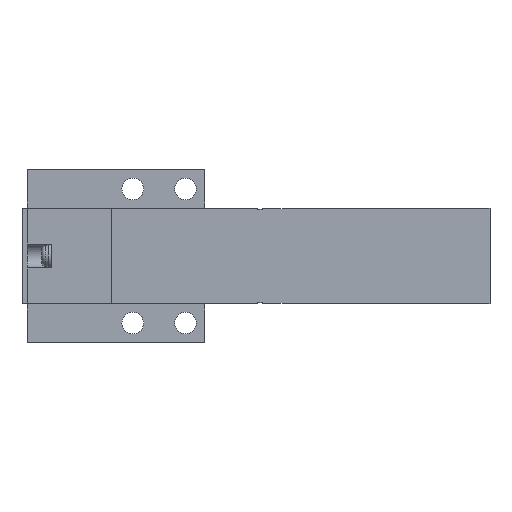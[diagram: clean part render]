
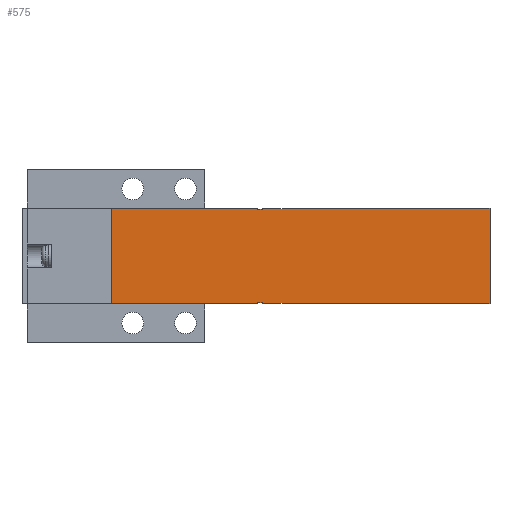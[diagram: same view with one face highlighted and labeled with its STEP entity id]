
A CAD part, front view. The second image highlights one B-rep face of the part: STEP entity #575.
In plain terms, the highlighted planar face has unit normal (0, -1, 0).
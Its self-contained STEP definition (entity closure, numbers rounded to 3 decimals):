
#575=ADVANCED_FACE('',(#1236),#1237,.F.);
#1236=FACE_OUTER_BOUND('',#2072,.T.);
#1237=PLANE('',#2073);
#2072=EDGE_LOOP('',(#4424,#4425,#4426,#4427,#4428,#4429,#4430,#4431,#4432,#4433,#4434,#4435,#4436,#4437,#4438,#4439,#4440,#4441,#4442,#4443,#4444,#4445,#4446,#4447));
#2073=AXIS2_PLACEMENT_3D('',#4448,#4449,#4450);
#4424=ORIENTED_EDGE('',*,*,#6167,.F.);
#4425=ORIENTED_EDGE('',*,*,#6168,.T.);
#4426=ORIENTED_EDGE('',*,*,#6169,.T.);
#4427=ORIENTED_EDGE('',*,*,#6170,.F.);
#4428=ORIENTED_EDGE('',*,*,#6171,.F.);
#4429=ORIENTED_EDGE('',*,*,#6126,.T.);
#4430=ORIENTED_EDGE('',*,*,#6132,.F.);
#4431=ORIENTED_EDGE('',*,*,#6172,.T.);
#4432=ORIENTED_EDGE('',*,*,#6173,.F.);
#4433=ORIENTED_EDGE('',*,*,#6174,.T.);
#4434=ORIENTED_EDGE('',*,*,#6162,.T.);
#4435=ORIENTED_EDGE('',*,*,#6175,.T.);
#4436=ORIENTED_EDGE('',*,*,#6176,.T.);
#4437=ORIENTED_EDGE('',*,*,#6177,.F.);
#4438=ORIENTED_EDGE('',*,*,#6178,.T.);
#4439=ORIENTED_EDGE('',*,*,#6179,.F.);
#4440=ORIENTED_EDGE('',*,*,#6180,.T.);
#4441=ORIENTED_EDGE('',*,*,#6181,.T.);
#4442=ORIENTED_EDGE('',*,*,#6109,.T.);
#4443=ORIENTED_EDGE('',*,*,#6182,.T.);
#4444=ORIENTED_EDGE('',*,*,#6183,.T.);
#4445=ORIENTED_EDGE('',*,*,#6184,.F.);
#4446=ORIENTED_EDGE('',*,*,#6185,.F.);
#4447=ORIENTED_EDGE('',*,*,#6186,.F.);
#4448=CARTESIAN_POINT('',(18.6,0.0,10.0));
#4449=DIRECTION('',(-0.0,1.0,0.0));
#4450=DIRECTION('',(1.0,0.0,0.0));
#6109=EDGE_CURVE('',#7534,#7535,#7536,.T.);
#6126=EDGE_CURVE('',#7567,#7565,#7568,.T.);
#6132=EDGE_CURVE('',#7576,#7565,#7578,.T.);
#6162=EDGE_CURVE('',#7633,#7631,#7634,.T.);
#6167=EDGE_CURVE('',#7641,#7642,#7643,.T.);
#6168=EDGE_CURVE('',#7641,#7644,#7645,.T.);
#6169=EDGE_CURVE('',#7644,#7646,#7647,.T.);
#6170=EDGE_CURVE('',#7648,#7646,#7649,.T.);
#6171=EDGE_CURVE('',#7567,#7648,#7650,.T.);
#6172=EDGE_CURVE('',#7576,#7651,#7652,.T.);
#6173=EDGE_CURVE('',#7653,#7651,#7654,.T.);
#6174=EDGE_CURVE('',#7653,#7633,#7655,.T.);
#6175=EDGE_CURVE('',#7631,#7656,#7657,.T.);
#6176=EDGE_CURVE('',#7656,#7658,#7659,.T.);
#6177=EDGE_CURVE('',#7660,#7658,#7661,.T.);
#6178=EDGE_CURVE('',#7660,#7662,#7663,.T.);
#6179=EDGE_CURVE('',#7664,#7662,#7665,.T.);
#6180=EDGE_CURVE('',#7664,#7666,#7667,.T.);
#6181=EDGE_CURVE('',#7666,#7534,#7668,.T.);
#6182=EDGE_CURVE('',#7535,#7669,#7670,.T.);
#6183=EDGE_CURVE('',#7669,#7671,#7672,.T.);
#6184=EDGE_CURVE('',#7673,#7671,#7674,.T.);
#6185=EDGE_CURVE('',#7675,#7673,#7676,.T.);
#6186=EDGE_CURVE('',#7642,#7675,#7677,.T.);
#7534=VERTEX_POINT('',#9879);
#7535=VERTEX_POINT('',#9880);
#7536=LINE('',#9881,#9882);
#7565=VERTEX_POINT('',#9924);
#7567=VERTEX_POINT('',#9927);
#7568=LINE('',#9928,#9929);
#7576=VERTEX_POINT('',#9939);
#7578=LINE('',#9942,#9943);
#7631=VERTEX_POINT('',#10017);
#7633=VERTEX_POINT('',#10020);
#7634=LINE('',#10021,#10022);
#7641=VERTEX_POINT('',#10033);
#7642=VERTEX_POINT('',#10034);
#7643=LINE('',#10035,#10036);
#7644=VERTEX_POINT('',#10037);
#7645=LINE('',#10038,#10039);
#7646=VERTEX_POINT('',#10040);
#7647=LINE('',#10041,#10042);
#7648=VERTEX_POINT('',#10043);
#7649=LINE('',#10044,#10045);
#7650=LINE('',#10046,#10047);
#7651=VERTEX_POINT('',#10048);
#7652=LINE('',#10049,#10050);
#7653=VERTEX_POINT('',#10051);
#7654=LINE('',#10052,#10053);
#7655=LINE('',#10054,#10055);
#7656=VERTEX_POINT('',#10056);
#7657=LINE('',#10057,#10058);
#7658=VERTEX_POINT('',#10059);
#7659=LINE('',#10060,#10061);
#7660=VERTEX_POINT('',#10062);
#7661=LINE('',#10063,#10064);
#7662=VERTEX_POINT('',#10065);
#7663=LINE('',#10066,#10067);
#7664=VERTEX_POINT('',#10068);
#7665=LINE('',#10069,#10070);
#7666=VERTEX_POINT('',#10071);
#7667=LINE('',#10072,#10073);
#7668=LINE('',#10074,#10075);
#7669=VERTEX_POINT('',#10076);
#7670=LINE('',#10077,#10078);
#7671=VERTEX_POINT('',#10079);
#7672=LINE('',#10080,#10081);
#7673=VERTEX_POINT('',#10082);
#7674=LINE('',#10083,#10084);
#7675=VERTEX_POINT('',#10085);
#7676=LINE('',#10086,#10087);
#7677=LINE('',#10088,#10089);
#9879=CARTESIAN_POINT('',(50.1,0.0,-9.9));
#9880=CARTESIAN_POINT('',(55.1,0.0,-9.9));
#9881=CARTESIAN_POINT('',(44.1,0.0,-9.9));
#9882=VECTOR('',#11543,1.0);
#9924=CARTESIAN_POINT('',(44.1,0.0,10.0));
#9927=CARTESIAN_POINT('',(44.1,0.0,9.9));
#9928=CARTESIAN_POINT('',(44.1,0.0,9.9));
#9929=VECTOR('',#11561,1.0);
#9939=CARTESIAN_POINT('',(35.1,0.0,10.0));
#9942=CARTESIAN_POINT('',(18.6,0.0,10.0));
#9943=VECTOR('',#11571,1.0);
#10017=CARTESIAN_POINT('',(35.1,0.0,-9.9));
#10020=CARTESIAN_POINT('',(18.6,0.0,-9.9));
#10021=CARTESIAN_POINT('',(18.6,0.0,-9.9));
#10022=VECTOR('',#11615,1.0);
#10033=CARTESIAN_POINT('',(50.1,0.0,9.9));
#10034=CARTESIAN_POINT('',(55.1,0.0,9.9));
#10035=CARTESIAN_POINT('',(44.1,0.0,9.9));
#10036=VECTOR('',#11620,1.0);
#10037=CARTESIAN_POINT('',(50.1,0.0,9.8));
#10038=CARTESIAN_POINT('',(50.1,0.0,10.0));
#10039=VECTOR('',#11621,1.0);
#10040=CARTESIAN_POINT('',(49.1,0.0,9.8));
#10041=CARTESIAN_POINT('',(18.6,0.0,9.8));
#10042=VECTOR('',#11622,1.0);
#10043=CARTESIAN_POINT('',(49.1,0.0,9.9));
#10044=CARTESIAN_POINT('',(49.1,0.0,10.0));
#10045=VECTOR('',#11623,1.0);
#10046=CARTESIAN_POINT('',(44.1,0.0,9.9));
#10047=VECTOR('',#11624,1.0);
#10048=CARTESIAN_POINT('',(35.1,0.0,9.9));
#10049=CARTESIAN_POINT('',(35.1,0.0,10.1));
#10050=VECTOR('',#11625,1.0);
#10051=CARTESIAN_POINT('',(18.6,0.0,9.9));
#10052=CARTESIAN_POINT('',(18.6,0.0,9.9));
#10053=VECTOR('',#11626,1.0);
#10054=CARTESIAN_POINT('',(18.6,0.0,10.0));
#10055=VECTOR('',#11627,1.0);
#10056=CARTESIAN_POINT('',(35.1,0.0,-10.0));
#10057=CARTESIAN_POINT('',(35.1,0.0,-9.9));
#10058=VECTOR('',#11628,1.0);
#10059=CARTESIAN_POINT('',(44.1,0.0,-10.0));
#10060=CARTESIAN_POINT('',(18.6,0.0,-10.0));
#10061=VECTOR('',#11629,1.0);
#10062=CARTESIAN_POINT('',(44.1,0.0,-9.9));
#10063=CARTESIAN_POINT('',(44.1,0.0,-9.9));
#10064=VECTOR('',#11630,1.0);
#10065=CARTESIAN_POINT('',(49.1,0.0,-9.9));
#10066=CARTESIAN_POINT('',(44.1,0.0,-9.9));
#10067=VECTOR('',#11631,1.0);
#10068=CARTESIAN_POINT('',(49.1,0.0,-9.8));
#10069=CARTESIAN_POINT('',(49.1,0.0,10.0));
#10070=VECTOR('',#11632,1.0);
#10071=CARTESIAN_POINT('',(50.1,0.0,-9.8));
#10072=CARTESIAN_POINT('',(18.6,0.0,-9.8));
#10073=VECTOR('',#11633,1.0);
#10074=CARTESIAN_POINT('',(50.1,0.0,10.0));
#10075=VECTOR('',#11634,1.0);
#10076=CARTESIAN_POINT('',(55.1,0.0,-10.0));
#10077=CARTESIAN_POINT('',(55.1,0.0,-9.9));
#10078=VECTOR('',#11635,1.0);
#10079=CARTESIAN_POINT('',(97.6,0.0,-10.0));
#10080=CARTESIAN_POINT('',(18.6,0.0,-10.0));
#10081=VECTOR('',#11636,1.0);
#10082=CARTESIAN_POINT('',(97.6,0.0,10.0));
#10083=CARTESIAN_POINT('',(97.6,0.0,10.0));
#10084=VECTOR('',#11637,1.0);
#10085=CARTESIAN_POINT('',(55.1,0.0,10.0));
#10086=CARTESIAN_POINT('',(18.6,0.0,10.0));
#10087=VECTOR('',#11638,1.0);
#10088=CARTESIAN_POINT('',(55.1,0.0,9.9));
#10089=VECTOR('',#11639,1.0);
#11543=DIRECTION('',(1.0,0.0,0.0));
#11561=DIRECTION('',(0.0,0.0,1.0));
#11571=DIRECTION('',(1.0,0.0,0.0));
#11615=DIRECTION('',(1.0,0.0,0.0));
#11620=DIRECTION('',(1.0,0.0,0.0));
#11621=DIRECTION('',(0.0,0.0,-1.0));
#11622=DIRECTION('',(-1.0,0.0,0.0));
#11623=DIRECTION('',(0.0,0.0,-1.0));
#11624=DIRECTION('',(1.0,0.0,0.0));
#11625=DIRECTION('',(0.0,0.0,-1.0));
#11626=DIRECTION('',(1.0,0.0,0.0));
#11627=DIRECTION('',(0.0,0.0,-1.0));
#11628=DIRECTION('',(0.0,0.0,-1.0));
#11629=DIRECTION('',(1.0,0.0,0.0));
#11630=DIRECTION('',(0.0,0.0,-1.0));
#11631=DIRECTION('',(1.0,0.0,0.0));
#11632=DIRECTION('',(0.0,0.0,-1.0));
#11633=DIRECTION('',(1.0,0.0,0.0));
#11634=DIRECTION('',(0.0,0.0,-1.0));
#11635=DIRECTION('',(0.0,0.0,-1.0));
#11636=DIRECTION('',(1.0,0.0,0.0));
#11637=DIRECTION('',(0.0,0.0,-1.0));
#11638=DIRECTION('',(1.0,0.0,0.0));
#11639=DIRECTION('',(0.0,0.0,1.0));
